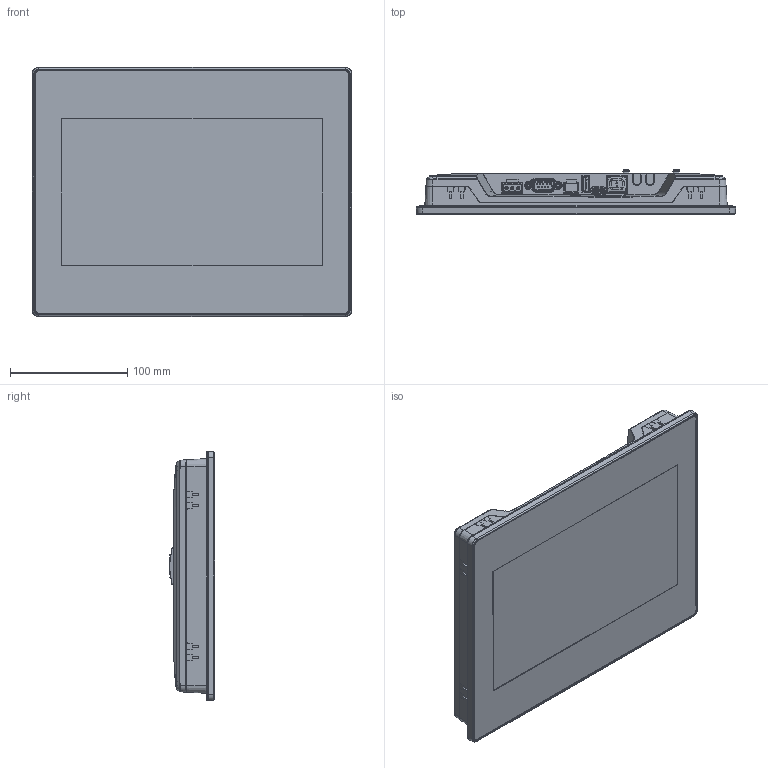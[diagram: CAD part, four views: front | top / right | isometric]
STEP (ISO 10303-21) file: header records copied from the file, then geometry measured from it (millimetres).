
FILE_DESCRIPTION(('TFLEX Exchange Step'),'2;1');
FILE_NAME('RSC-10E (ver. 2.0).stp', '2026-02-09T17:27:15+03:00',('Artem'),('Unknown organisation'),'TFLEX Exchange 2024.6','T-FLEX CAD','Unknown authorisation');
FILE_SCHEMA( ('AUTOMOTIVE_DESIGN { 1 0 10303 214 1 1 1 1 }') );
Length unit declared in the file: millimetre
Products named in the file (1): Nodes
Bounding box: 272.94 x 38.72 x 212.94 mm (x, y, z)
Volume: 1392726.4 mm3; surface area: 268425.4 mm2
Topology: 1 solids, 30 shells, 3491 faces, 9570 edges, 6156 vertices
Faces by surface type: plane 1731, cylinder 860, bspline 577, torus 177, cone 86, sphere 53, extrusion 7
Full cylindrical faces by diameter (mm): 0.5 x2, 1 x9, 1.8 x2, 2.5 x8, 2.7 x2, 3 x2, 3.5 x5, 3.8 x2, 4 x2, 4.5 x1, 5 x3, 6 x1, 7 x6, 8.333 x5
Entity records: 152884 total; most frequent: CARTESIAN_POINT 70806, ORIENTED_EDGE 19034, DIRECTION 14260, EDGE_CURVE 9517, VERTEX_POINT 6156, VECTOR 5098, LINE 5091, AXIS2_PLACEMENT_3D 4581
